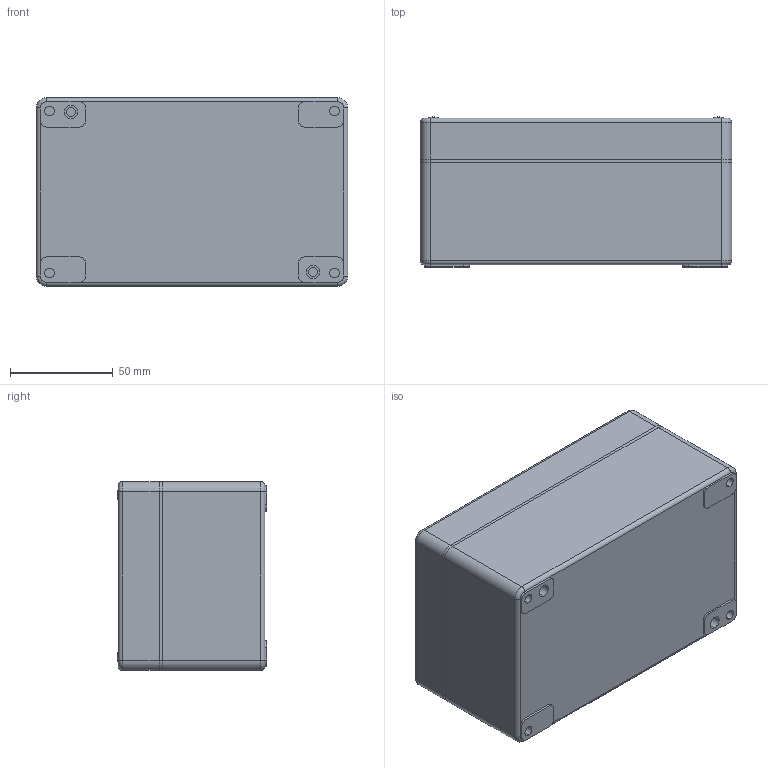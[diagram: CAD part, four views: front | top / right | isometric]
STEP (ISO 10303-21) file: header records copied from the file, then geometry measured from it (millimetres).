
FILE_DESCRIPTION (( 'STEP AP214' ), '1' );
FILE_NAME ('040C0915-7ES2.STEP', '2022-07-19T08:33:37', ( '' ), ( '' ), 'SwSTEP 2.0', 'SolidWorks 2013', '' );
FILE_SCHEMA (( 'AUTOMOTIVE_DESIGN' ));
Length unit declared in the file: millimetre
Products named in the file (1): 040C0915-7ES2
Bounding box: 152 x 73.05 x 92 mm (x, y, z)
Volume: 187072.7 mm3; surface area: 131287.4 mm2
Topology: 7 solids, 7 shells, 583 faces, 1550 edges, 1020 vertices
Faces by surface type: plane 314, cylinder 205, cone 40, torus 16, sphere 8
Entity records: 24856 total; most frequent: CARTESIAN_POINT 3394, DIRECTION 3241, ORIENTED_EDGE 3100, EDGE_CURVE 1550, AXIS2_PLACEMENT_3D 1171, VERTEX_POINT 1020, LINE 899, VECTOR 899
